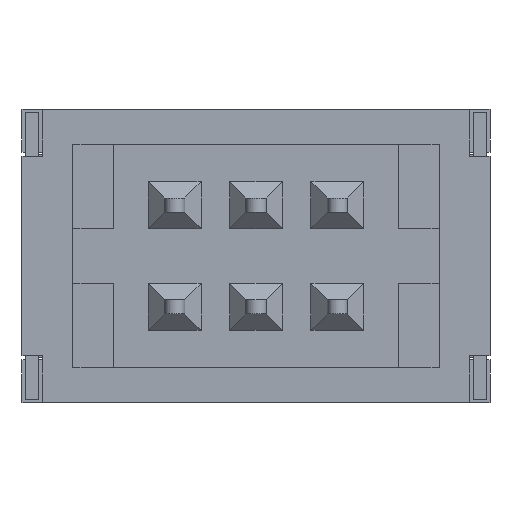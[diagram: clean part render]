
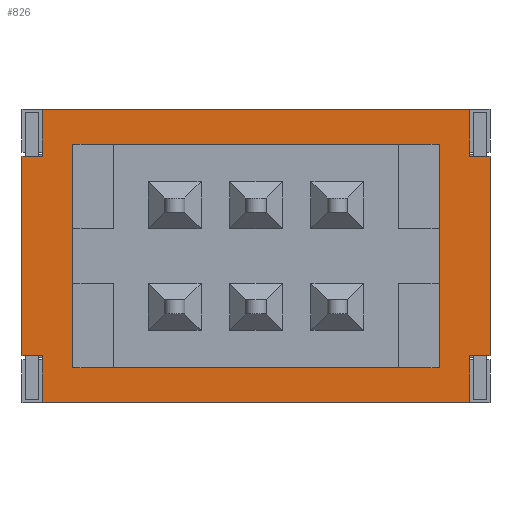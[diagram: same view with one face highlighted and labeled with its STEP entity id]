
A CAD part, front view. The second image highlights one B-rep face of the part: STEP entity #826.
In plain terms, the highlighted planar face has unit normal (0, -1, 0).
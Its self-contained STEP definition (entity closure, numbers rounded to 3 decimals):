
#6 = EDGE_CURVE ( 'NONE', #9, #8, #1015, .T. ) ;
#8 = VERTEX_POINT ( 'NONE', #1011 ) ;
#9 = VERTEX_POINT ( 'NONE', #1010 ) ;
#69 = EDGE_CURVE ( 'NONE', #72, #2080, #1097, .T. ) ;
#72 = VERTEX_POINT ( 'NONE', #1144 ) ;
#147 = VERTEX_POINT ( 'NONE', #1276 ) ;
#826 = ADVANCED_FACE ( 'NONE', ( #3096, #3095 ), #3094, .F. ) ;
#828 = VERTEX_POINT ( 'NONE', #3150 ) ;
#829 = EDGE_LOOP ( 'NONE', ( #832, #839, #830, #831, #906, #902, #903, #905, #900, #897, #886, #887 ) ) ;
#830 = ORIENTED_EDGE ( 'NONE', *, *, #837, .F. ) ;
#831 = ORIENTED_EDGE ( 'NONE', *, *, #838, .T. ) ;
#832 = ORIENTED_EDGE ( 'NONE', *, *, #6777, .T. ) ;
#833 = VERTEX_POINT ( 'NONE', #3149 ) ;
#836 = EDGE_CURVE ( 'NONE', #147, #828, #3146, .T. ) ;
#837 = EDGE_CURVE ( 'NONE', #833, #828, #3142, .T. ) ;
#838 = EDGE_CURVE ( 'NONE', #833, #2279, #3138, .T. ) ;
#839 = ORIENTED_EDGE ( 'NONE', *, *, #836, .T. ) ;
#881 = EDGE_CURVE ( 'NONE', #6778, #8, #3249, .T. ) ;
#882 = VERTEX_POINT ( 'NONE', #3245 ) ;
#883 = ORIENTED_EDGE ( 'NONE', *, *, #892, .F. ) ;
#884 = EDGE_CURVE ( 'NONE', #885, #893, #3244, .T. ) ;
#885 = VERTEX_POINT ( 'NONE', #3240 ) ;
#886 = ORIENTED_EDGE ( 'NONE', *, *, #6, .T. ) ;
#887 = ORIENTED_EDGE ( 'NONE', *, *, #881, .F. ) ;
#888 = EDGE_LOOP ( 'NONE', ( #894, #883, #890, #895 ) ) ;
#889 = VERTEX_POINT ( 'NONE', #3239 ) ;
#890 = ORIENTED_EDGE ( 'NONE', *, *, #884, .F. ) ;
#891 = EDGE_CURVE ( 'NONE', #882, #889, #3238, .T. ) ;
#892 = EDGE_CURVE ( 'NONE', #893, #882, #3234, .T. ) ;
#893 = VERTEX_POINT ( 'NONE', #3230 ) ;
#894 = ORIENTED_EDGE ( 'NONE', *, *, #891, .F. ) ;
#895 = ORIENTED_EDGE ( 'NONE', *, *, #896, .F. ) ;
#896 = EDGE_CURVE ( 'NONE', #889, #885, #3229, .T. ) ;
#897 = ORIENTED_EDGE ( 'NONE', *, *, #898, .T. ) ;
#898 = EDGE_CURVE ( 'NONE', #901, #9, #3293, .T. ) ;
#899 = EDGE_CURVE ( 'NONE', #901, #907, #3289, .T. ) ;
#900 = ORIENTED_EDGE ( 'NONE', *, *, #899, .F. ) ;
#901 = VERTEX_POINT ( 'NONE', #3285 ) ;
#902 = ORIENTED_EDGE ( 'NONE', *, *, #69, .F. ) ;
#903 = ORIENTED_EDGE ( 'NONE', *, *, #7739, .T. ) ;
#905 = ORIENTED_EDGE ( 'NONE', *, *, #908, .T. ) ;
#906 = ORIENTED_EDGE ( 'NONE', *, *, #2283, .T. ) ;
#907 = VERTEX_POINT ( 'NONE', #3283 ) ;
#908 = EDGE_CURVE ( 'NONE', #7746, #907, #3282, .T. ) ;
#1010 = CARTESIAN_POINT ( 'NONE',  ( 5.25, 1.4, 2.45 ) ) ;
#1011 = CARTESIAN_POINT ( 'NONE',  ( 5.25, 1.4, 3.6 ) ) ;
#1012 = DIRECTION ( 'NONE',  ( 0., 0., 1. ) ) ;
#1013 = VECTOR ( 'NONE', #1012, 1000. ) ;
#1014 = CARTESIAN_POINT ( 'NONE',  ( 5.25, 1.4, 3.6 ) ) ;
#1015 = LINE ( 'NONE', #1014, #1013 ) ;
#1095 = VECTOR ( 'NONE', #1149, 1000. ) ;
#1096 = CARTESIAN_POINT ( 'NONE',  ( -5.75, 1.4, -3.6 ) ) ;
#1097 = LINE ( 'NONE', #1096, #1095 ) ;
#1144 = CARTESIAN_POINT ( 'NONE',  ( 5.25, 1.4, -3.6 ) ) ;
#1149 = DIRECTION ( 'NONE',  ( -1., 0., 0. ) ) ;
#1276 = CARTESIAN_POINT ( 'NONE',  ( -5.25, 1.4, 2.45 ) ) ;
#2080 = VERTEX_POINT ( 'NONE', #3434 ) ;
#2279 = VERTEX_POINT ( 'NONE', #3424 ) ;
#2283 = EDGE_CURVE ( 'NONE', #2279, #2080, #3423, .T. ) ;
#3094 = PLANE ( 'NONE',  #3158 ) ;
#3095 = FACE_BOUND ( 'NONE', #888, .T. ) ;
#3096 = FACE_OUTER_BOUND ( 'NONE', #829, .T. ) ;
#3135 = DIRECTION ( 'NONE',  ( 1., 0., 0. ) ) ;
#3136 = VECTOR ( 'NONE', #3135, 1000. ) ;
#3137 = CARTESIAN_POINT ( 'NONE',  ( -5.75, 1.4, -2.45 ) ) ;
#3138 = LINE ( 'NONE', #3137, #3136 ) ;
#3139 = DIRECTION ( 'NONE',  ( 0., 0., 1. ) ) ;
#3140 = VECTOR ( 'NONE', #3139, 1000. ) ;
#3141 = CARTESIAN_POINT ( 'NONE',  ( -5.75, 1.4, -3.6 ) ) ;
#3142 = LINE ( 'NONE', #3141, #3140 ) ;
#3143 = DIRECTION ( 'NONE',  ( -1., 0., 0. ) ) ;
#3144 = VECTOR ( 'NONE', #3143, 1000. ) ;
#3145 = CARTESIAN_POINT ( 'NONE',  ( -5.75, 1.4, 2.45 ) ) ;
#3146 = LINE ( 'NONE', #3145, #3144 ) ;
#3149 = CARTESIAN_POINT ( 'NONE',  ( -5.75, 1.4, -2.45 ) ) ;
#3150 = CARTESIAN_POINT ( 'NONE',  ( -5.75, 1.4, 2.45 ) ) ;
#3155 = DIRECTION ( 'NONE',  ( 0., 0., 1. ) ) ;
#3156 = DIRECTION ( 'NONE',  ( 0., 1., 0. ) ) ;
#3157 = CARTESIAN_POINT ( 'NONE',  ( -5.75, 1.4, 3.6 ) ) ;
#3158 = AXIS2_PLACEMENT_3D ( 'NONE', #3157, #3156, #3155 ) ;
#3226 = DIRECTION ( 'NONE',  ( 1., 0., 0. ) ) ;
#3227 = VECTOR ( 'NONE', #3226, 1000. ) ;
#3228 = CARTESIAN_POINT ( 'NONE',  ( -4.5, 1.4, -2.75 ) ) ;
#3229 = LINE ( 'NONE', #3228, #3227 ) ;
#3230 = CARTESIAN_POINT ( 'NONE',  ( 4.5, 1.4, 2.75 ) ) ;
#3231 = DIRECTION ( 'NONE',  ( -1., 0., 0. ) ) ;
#3232 = VECTOR ( 'NONE', #3231, 1000. ) ;
#3233 = CARTESIAN_POINT ( 'NONE',  ( -4.5, 1.4, 2.75 ) ) ;
#3234 = LINE ( 'NONE', #3233, #3232 ) ;
#3235 = DIRECTION ( 'NONE',  ( 0., 0., -1. ) ) ;
#3236 = VECTOR ( 'NONE', #3235, 1000. ) ;
#3237 = CARTESIAN_POINT ( 'NONE',  ( -4.5, 1.4, 2.75 ) ) ;
#3238 = LINE ( 'NONE', #3237, #3236 ) ;
#3239 = CARTESIAN_POINT ( 'NONE',  ( -4.5, 1.4, -2.75 ) ) ;
#3240 = CARTESIAN_POINT ( 'NONE',  ( 4.5, 1.4, -2.75 ) ) ;
#3241 = DIRECTION ( 'NONE',  ( 0., 0., 1. ) ) ;
#3242 = VECTOR ( 'NONE', #3241, 1000. ) ;
#3243 = CARTESIAN_POINT ( 'NONE',  ( 4.5, 1.4, 2.75 ) ) ;
#3244 = LINE ( 'NONE', #3243, #3242 ) ;
#3245 = CARTESIAN_POINT ( 'NONE',  ( -4.5, 1.4, 2.75 ) ) ;
#3246 = DIRECTION ( 'NONE',  ( 1., 0., 0. ) ) ;
#3247 = VECTOR ( 'NONE', #3246, 1000. ) ;
#3248 = CARTESIAN_POINT ( 'NONE',  ( -5.75, 1.4, 3.6 ) ) ;
#3249 = LINE ( 'NONE', #3248, #3247 ) ;
#3279 = DIRECTION ( 'NONE',  ( 1., 0., 0. ) ) ;
#3280 = VECTOR ( 'NONE', #3279, 1000. ) ;
#3281 = CARTESIAN_POINT ( 'NONE',  ( -5.75, 1.4, -2.45 ) ) ;
#3282 = LINE ( 'NONE', #3281, #3280 ) ;
#3283 = CARTESIAN_POINT ( 'NONE',  ( 5.75, 1.4, -2.45 ) ) ;
#3285 = CARTESIAN_POINT ( 'NONE',  ( 5.75, 1.4, 2.45 ) ) ;
#3286 = DIRECTION ( 'NONE',  ( 0., 0., -1. ) ) ;
#3287 = VECTOR ( 'NONE', #3286, 1000. ) ;
#3288 = CARTESIAN_POINT ( 'NONE',  ( 5.75, 1.4, -3.6 ) ) ;
#3289 = LINE ( 'NONE', #3288, #3287 ) ;
#3290 = DIRECTION ( 'NONE',  ( -1., 0., 0. ) ) ;
#3291 = VECTOR ( 'NONE', #3290, 1000. ) ;
#3292 = CARTESIAN_POINT ( 'NONE',  ( -5.75, 1.4, 2.45 ) ) ;
#3293 = LINE ( 'NONE', #3292, #3291 ) ;
#3420 = DIRECTION ( 'NONE',  ( 0., 0., -1. ) ) ;
#3421 = VECTOR ( 'NONE', #3420, 1000. ) ;
#3422 = CARTESIAN_POINT ( 'NONE',  ( -5.25, 1.4, 3.6 ) ) ;
#3423 = LINE ( 'NONE', #3422, #3421 ) ;
#3424 = CARTESIAN_POINT ( 'NONE',  ( -5.25, 1.4, -2.45 ) ) ;
#3434 = CARTESIAN_POINT ( 'NONE',  ( -5.25, 1.4, -3.6 ) ) ;
#4424 = CARTESIAN_POINT ( 'NONE',  ( -5.25, 1.4, 3.6 ) ) ;
#4425 = DIRECTION ( 'NONE',  ( 0., 0., -1. ) ) ;
#4426 = VECTOR ( 'NONE', #4425, 1000. ) ;
#4427 = CARTESIAN_POINT ( 'NONE',  ( -5.25, 1.4, 3.6 ) ) ;
#4428 = LINE ( 'NONE', #4427, #4426 ) ;
#6325 = CARTESIAN_POINT ( 'NONE',  ( 5.25, 1.4, -2.45 ) ) ;
#6331 = DIRECTION ( 'NONE',  ( 0., 0., 1. ) ) ;
#6332 = VECTOR ( 'NONE', #6331, 1000. ) ;
#6333 = CARTESIAN_POINT ( 'NONE',  ( 5.25, 1.4, 3.6 ) ) ;
#6334 = LINE ( 'NONE', #6333, #6332 ) ;
#6777 = EDGE_CURVE ( 'NONE', #6778, #147, #4428, .T. ) ;
#6778 = VERTEX_POINT ( 'NONE', #4424 ) ;
#7739 = EDGE_CURVE ( 'NONE', #72, #7746, #6334, .T. ) ;
#7746 = VERTEX_POINT ( 'NONE', #6325 ) ;
